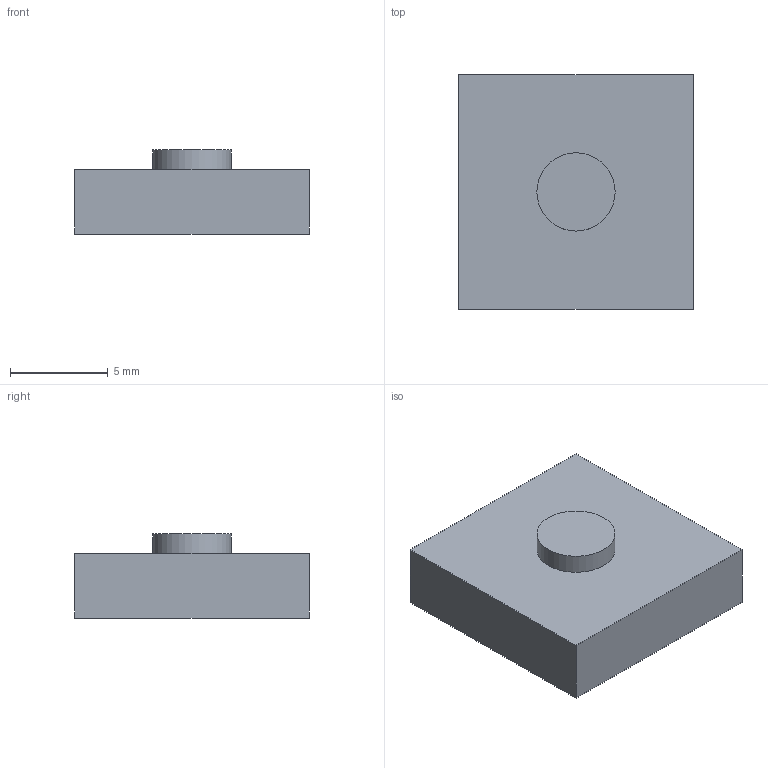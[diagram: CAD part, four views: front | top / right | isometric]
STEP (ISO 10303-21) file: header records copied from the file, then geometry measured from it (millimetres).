
FILE_DESCRIPTION(/* description */ (''),/* implementation_level */ '2;1');
FILE_NAME(/* name */ 'REF_Play_switch_12x12x4p3_NOMINAL.step',/* time_stamp */ '2026-09-16T19:15:04-07:00',/* author */ (''),/* organization */ (''),/* preprocessor_version */ 'ST-DEVELOPER v20.1',/* originating_system */ 'Autodesk Translation Framework v15.8.0.0',/* authorisation */ '');
FILE_SCHEMA (('AUTOMOTIVE_DESIGN { 1 0 10303 214 3 1 1 }'));
Length unit declared in the file: centimetre
Products named in the file (1): 2026-09-16-19-15-04-581
Bounding box: 12 x 12 x 4.3 mm (x, y, z)
Volume: 487.8 mm3; surface area: 459 mm2
Topology: 1 solids, 1 shells, 8 faces, 15 edges, 10 vertices
Faces by surface type: plane 7, cylinder 1
Full cylindrical faces by diameter (mm): 4 x1
Entity records: 241 total; most frequent: DIRECTION 35, CARTESIAN_POINT 34, ORIENTED_EDGE 30, EDGE_CURVE 15, LINE 13, VECTOR 13, AXIS2_PLACEMENT_3D 11, VERTEX_POINT 10
